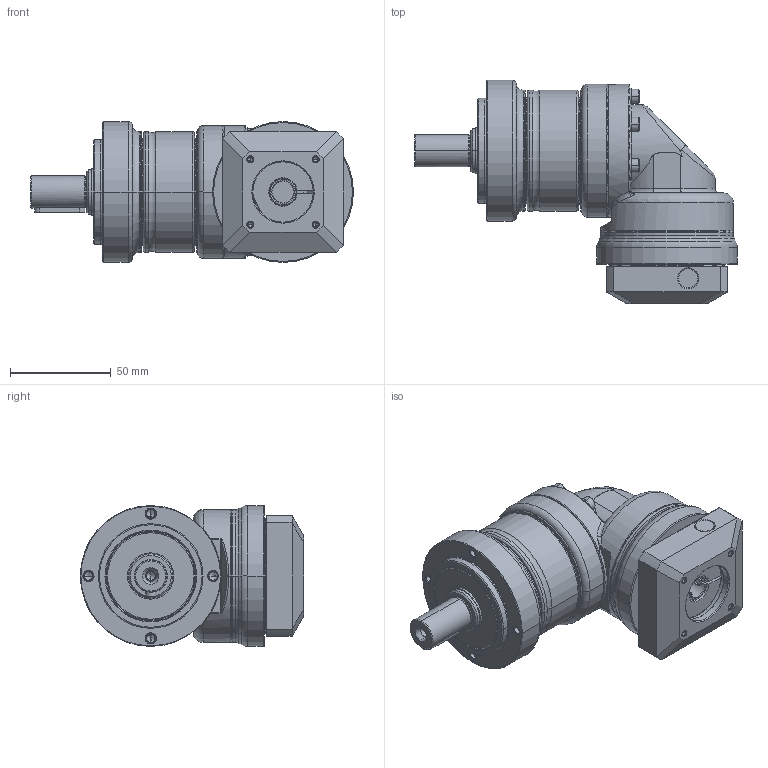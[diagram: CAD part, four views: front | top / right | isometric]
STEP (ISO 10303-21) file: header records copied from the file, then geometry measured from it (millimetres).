
FILE_DESCRIPTION((''),'2;1');
FILE_NAME('PE2R-070_1ST_11-P0411200101_ASM','2016-05-06T',('d00435'),(''),'PRO/ENGINEER BY PARAMETRIC TECHNOLOGY CORPORATION, 2008410','PRO/ENGINEER BY PARAMETRIC TECHNOLOGY CORPORATION, 2008410','');
FILE_SCHEMA(('CONFIG_CONTROL_DESIGN'));
Length unit declared in the file: millimetre
Products named in the file (12): P1323210001; P0250200001; P0350201001; P1349200001; P1017200001; P0713201001; P0503200005; P1350200101; P0411200101; P1702300001; 2111B104020; PE2R-070_1ST_11-P0411200101_ASM
Assembly tree (16 placements, depth 2):
  PE2R-070_1ST_11-P0411200101_ASM
    P1323210001
    P0250200001
    P0350201001
    P1349200001
    P1017200001
    P0713201001
    P0503200005
    P1350200101
    P0411200101
    P1702300001
    2111B104020  x6
Bounding box: 160.5 x 111 x 70 mm (x, y, z)
Volume: 356655.5 mm3; surface area: 111350.6 mm2
Topology: 16 solids, 32 shells, 853 faces, 1893 edges, 1115 vertices
Faces by surface type: cylinder 279, cone 226, plane 210, torus 106, bspline 32
Entity records: 24853 total; most frequent: CARTESIAN_POINT 9172, DIRECTION 3536, ORIENTED_EDGE 2954, EDGE_CURVE 1509, AXIS2_PLACEMENT_3D 1507, VERTEX_POINT 915, CIRCLE 813, EDGE_LOOP 790
